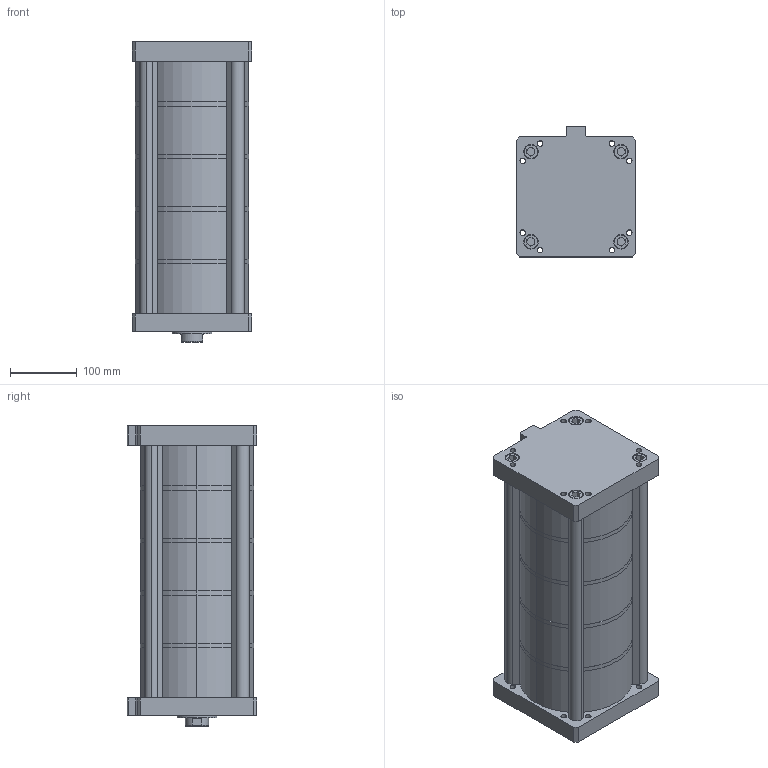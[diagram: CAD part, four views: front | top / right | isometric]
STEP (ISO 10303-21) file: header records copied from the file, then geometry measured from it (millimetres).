
FILE_DESCRIPTION (( 'STEP AP203' ), '1' );
FILE_NAME ('MHK-160-50-F-5.STEP', '2016-03-30T09:35:56', ( 'WIN' ), ( '' ), 'SwSTEP 2.0', 'SolidWorks 2014', '' );
FILE_SCHEMA (( 'CONFIG_CONTROL_DESIGN' ));
Length unit declared in the file: millimetre
Products named in the file (1): MHK-160-50-F-5
Bounding box: 180 x 195 x 452.5 mm (x, y, z)
Volume: 3291312.2 mm3; surface area: 1003971.7 mm2
Topology: 12 solids, 12 shells, 406 faces, 958 edges, 606 vertices
Faces by surface type: plane 244, cylinder 152, cone 10
Entity records: 11862 total; most frequent: DIRECTION 2171, CARTESIAN_POINT 2009, ORIENTED_EDGE 1908, EDGE_CURVE 954, AXIS2_PLACEMENT_3D 818, VERTEX_POINT 606, LINE 535, VECTOR 535
